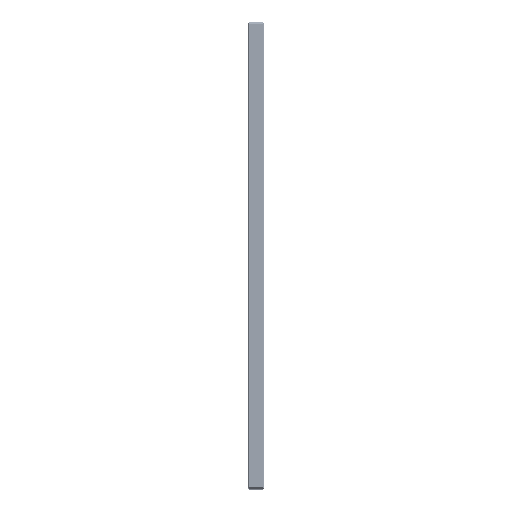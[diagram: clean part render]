
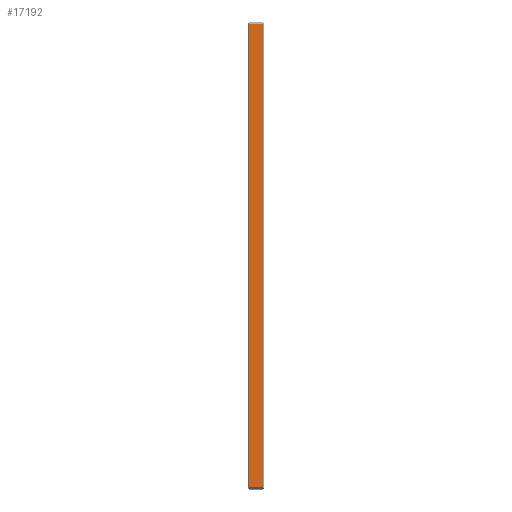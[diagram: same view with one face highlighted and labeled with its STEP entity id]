
A CAD part, top view. The second image highlights one B-rep face of the part: STEP entity #17192.
In plain terms, the highlighted planar face has unit normal (0, 0, 1).
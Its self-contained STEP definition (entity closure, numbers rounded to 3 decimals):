
#5218=FACE_OUTER_BOUND($,#7401,.T.);
#7401=EDGE_LOOP($,(#14539,#14540,#14541,#14542));
#10008=LINE($,#27701,#10048);
#10016=LINE($,#28582,#10056);
#10021=LINE($,#28592,#10061);
#10039=LINE($,#29492,#10079);
#10048=VECTOR($,#21558,13.);
#10056=VECTOR($,#22436,446.);
#10061=VECTOR($,#22443,13.);
#10079=VECTOR($,#23343,446.);
#10087=VERTEX_POINT($,#27698);
#10088=VERTEX_POINT($,#27700);
#10526=VERTEX_POINT($,#28580);
#10530=VERTEX_POINT($,#28590);
#11844=EDGE_CURVE($,#10087,#10088,#10008,.T.);
#12285=EDGE_CURVE($,#10526,#10087,#10016,.T.);
#12290=EDGE_CURVE($,#10530,#10526,#10021,.T.);
#12741=EDGE_CURVE($,#10088,#10530,#10039,.T.);
#14539=ORIENTED_EDGE($,*,*,#12285,.F.);
#14540=ORIENTED_EDGE($,*,*,#12290,.F.);
#14541=ORIENTED_EDGE($,*,*,#12741,.F.);
#14542=ORIENTED_EDGE($,*,*,#11844,.F.);
#17169=PLANE($,#19378);
#17192=ADVANCED_FACE($,(#5218),#17169,.T.);
#19378=AXIS2_PLACEMENT_3D($,#29497,#23348,#23349);
#21558=DIRECTION($,(1.,0.,0.));
#22436=DIRECTION($,(0.,1.,0.));
#22443=DIRECTION($,(-1.,0.,0.));
#23343=DIRECTION($,(0.,-1.,0.));
#23348=DIRECTION('center_axis',(0.,0.,1.));
#23349=DIRECTION('ref_axis',(0.,-1.,0.));
#27698=CARTESIAN_POINT('',(1.,448.,600.));
#27700=CARTESIAN_POINT('',(14.,448.,600.));
#27701=CARTESIAN_POINT($,(0.,448.,600.));
#28580=CARTESIAN_POINT('',(1.,2.,600.));
#28582=CARTESIAN_POINT($,(1.,337.5,600.));
#28590=CARTESIAN_POINT('',(14.,2.,600.));
#28592=CARTESIAN_POINT($,(0.,2.,600.));
#29492=CARTESIAN_POINT($,(14.,337.5,600.));
#29497=CARTESIAN_POINT('Origin',(0.,450.,600.));
